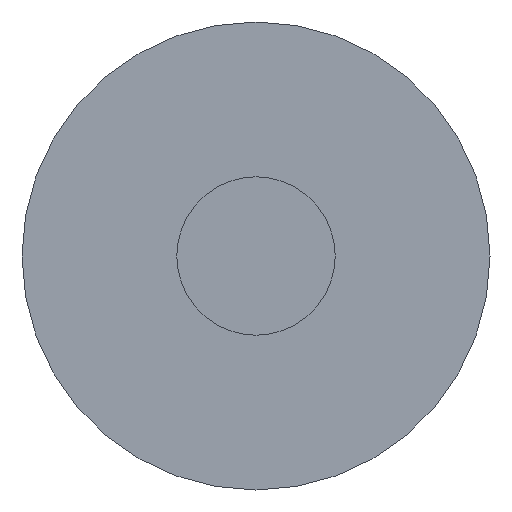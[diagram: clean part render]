
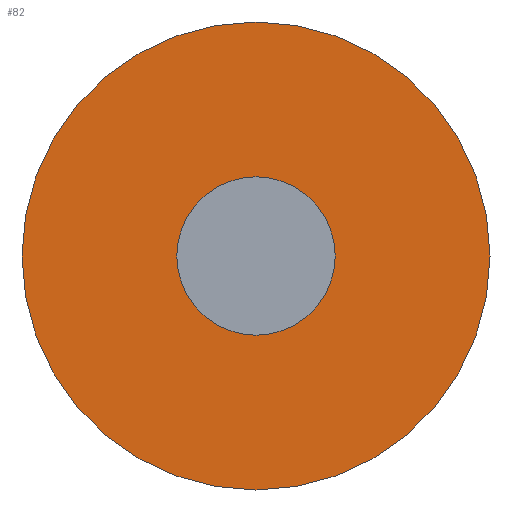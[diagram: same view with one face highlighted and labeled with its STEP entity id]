
A CAD part, front view. The second image highlights one B-rep face of the part: STEP entity #82.
In plain terms, the highlighted planar face has unit normal (0, -1, 0).
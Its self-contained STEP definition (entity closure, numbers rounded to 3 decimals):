
#64=PLANE('',#227);
#82=ADVANCED_FACE('',(#100,#101),#64,.T.);
#100=FACE_BOUND('',#116,.T.);
#101=FACE_BOUND('',#117,.T.);
#116=EDGE_LOOP('',(#138));
#117=EDGE_LOOP('',(#139));
#138=ORIENTED_EDGE('',*,*,#193,.T.);
#139=ORIENTED_EDGE('',*,*,#192,.F.);
#176=VERTEX_POINT('',#310);
#177=VERTEX_POINT('',#314);
#192=EDGE_CURVE('',#176,#176,#212,.T.);
#193=EDGE_CURVE('',#177,#177,#213,.T.);
#212=CIRCLE('',#223,11.);
#213=CIRCLE('',#226,32.5);
#223=AXIS2_PLACEMENT_3D('',#309,#250,#251);
#226=AXIS2_PLACEMENT_3D('',#313,#256,#257);
#227=AXIS2_PLACEMENT_3D('',#315,#258,#259);
#250=DIRECTION('',(0.,-1.,0.));
#251=DIRECTION('',(1.,0.,0.));
#256=DIRECTION('',(0.,-1.,0.));
#257=DIRECTION('',(1.,0.,0.));
#258=DIRECTION('',(0.,-1.,0.));
#259=DIRECTION('',(0.,0.,-1.));
#309=CARTESIAN_POINT('',(0.,-50.,0.));
#310=CARTESIAN_POINT('',(11.,-50.,0.));
#313=CARTESIAN_POINT('',(0.,-50.,0.));
#314=CARTESIAN_POINT('',(32.5,-50.,0.));
#315=CARTESIAN_POINT('',(0.,-50.,0.));
